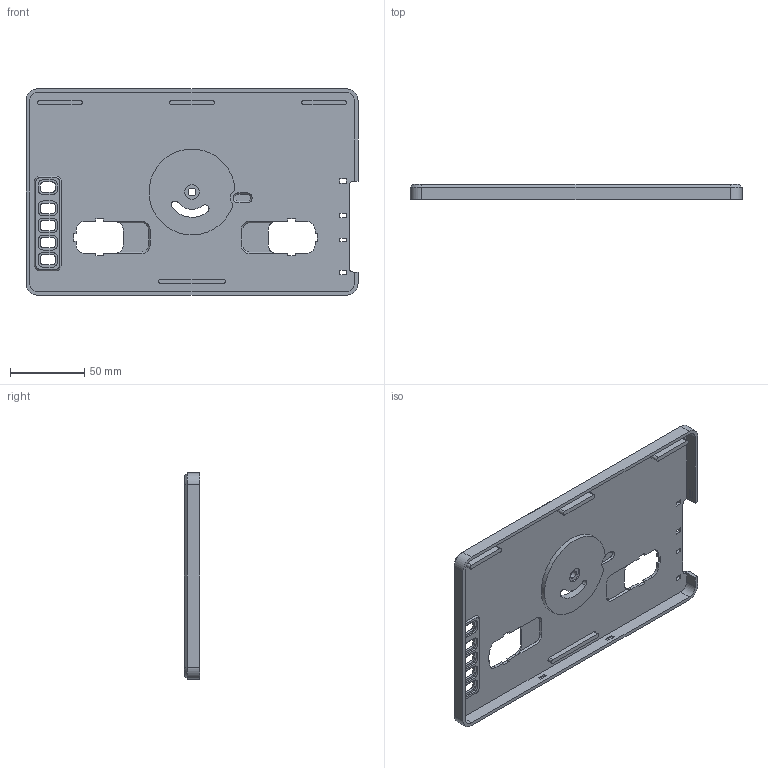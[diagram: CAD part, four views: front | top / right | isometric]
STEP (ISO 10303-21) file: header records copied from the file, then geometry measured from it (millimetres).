
FILE_DESCRIPTION(/* description */ ('STEP AP242','CAx-IF Rec.Pracs.---Representation and Presentation of Product Manufacturing Information (PMI)---4.0---2014-10-13','CAx-IF Rec.Pracs.---3D Tessellated Geometry---0.4---2014-09-14','2;1'),/* implementation_level */ '2;1');
FILE_NAME(/* name */ '687e691df344454910d474ad',/* time_stamp */ '2025-07-21T16:21:50Z',/* author */ (''),/* organization */ (''),/* preprocessor_version */ 'ST-DEVELOPER v20',/* originating_system */ 'ONSHAPE BY PTC INC, 1.201',/* authorisation */ ' ');
FILE_SCHEMA (('AP242_MANAGED_MODEL_BASED_3D_ENGINEERING_MIM_LF { 1 0 10303 442 1 1 4 }'));
Length unit declared in the file: metre
Products named in the file (1): Back Case
Bounding box: 223 x 10.2 x 138.61 mm (x, y, z)
Volume: 76186.7 mm3; surface area: 72706.1 mm2
Topology: 1 solids, 1 shells, 403 faces, 1105 edges, 733 vertices
Faces by surface type: plane 232, cylinder 109, bspline 47, cone 14, torus 1
Full cylindrical faces by diameter (mm): 5.3 x1, 9.75 x1
Entity records: 12977 total; most frequent: CARTESIAN_POINT 2754, ORIENTED_EDGE 2202, DIRECTION 1969, EDGE_CURVE 1101, LINE 759, VECTOR 759, VERTEX_POINT 732, AXIS2_PLACEMENT_3D 605
